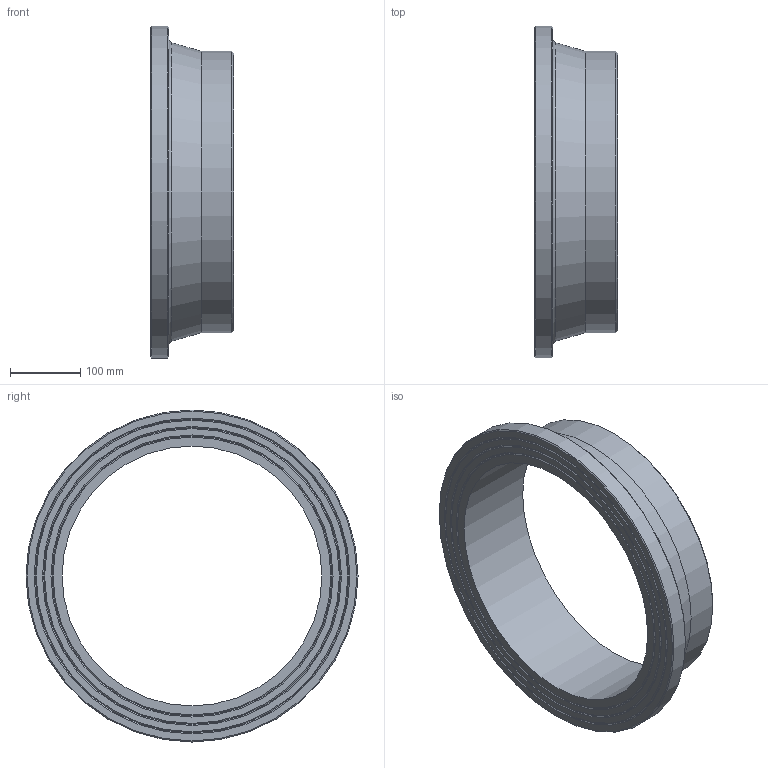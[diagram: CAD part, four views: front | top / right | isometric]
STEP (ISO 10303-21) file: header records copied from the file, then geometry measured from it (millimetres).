
FILE_DESCRIPTION(/* description */ ('Unknown'),/* implementation_level */ '2;1');
FILE_NAME(/* name */ 'CCP400A',/* time_stamp */ '2022-04-05T10:33:01+02:00',/* author */ ('Unknown'),/* organization */ ('Unknown'),/* preprocessor_version */ 'ST-DEVELOPER v18.1',/* originating_system */ 'Solid Edge',/* authorisation */ 'Unknown');
FILE_SCHEMA (('AUTOMOTIVE_DESIGN {1 0 10303 214 3 1 1}'));
Length unit declared in the file: millimetre
Products named in the file (1): CCP400A
Bounding box: 118 x 472 x 472 mm (x, y, z)
Volume: 3854324.6 mm3; surface area: 410348 mm2
Topology: 1 solids, 1 shells, 20 faces, 35 edges, 21 vertices
Faces by surface type: cone 10, plane 6, cylinder 3, torus 1
Full cylindrical faces by diameter (mm): 369.4 x1, 400 x1, 472 x1
Entity records: 438 total; most frequent: DIRECTION 82, CARTESIAN_POINT 61, AXIS2_PLACEMENT_3D 41, ORIENTED_EDGE 40, EDGE_LOOP 40, FACE_BOUND 40, EDGE_CURVE 20, VERTEX_POINT 20
